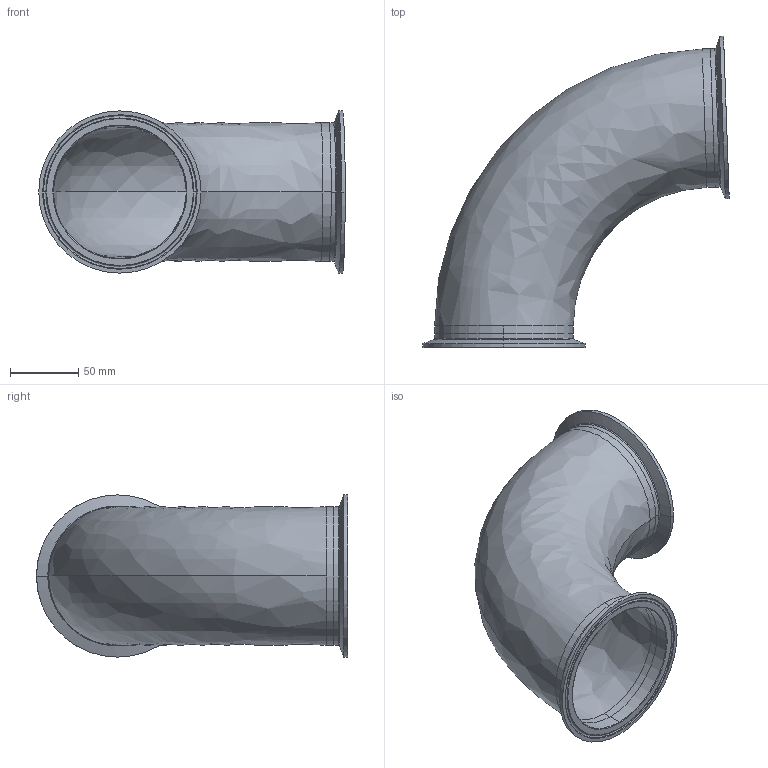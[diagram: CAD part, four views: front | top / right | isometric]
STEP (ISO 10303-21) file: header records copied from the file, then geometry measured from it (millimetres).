
FILE_DESCRIPTION (( 'STEP AP214' ), '1' );
FILE_NAME ('TEG2C886L4.0-...STEP', '2016-05-22T09:25:23', ( 'eran' ), ( '' ), 'SwSTEP 2.0', 'SolidWorks 2016', '' );
FILE_SCHEMA (( 'AUTOMOTIVE_DESIGN' ));
Length unit declared in the file: millimetre
Products named in the file (1): TEG2C886L4.0-..
Bounding box: 224.61 x 228.09 x 118.92 mm (x, y, z)
Volume: 200724.3 mm3; surface area: 181005.2 mm2
Topology: 3 solids, 3 shells, 64 faces, 160 edges, 104 vertices
Faces by surface type: bspline 24, cylinder 20, cone 12, plane 8
Entity records: 3360 total; most frequent: CARTESIAN_POINT 1773, DIRECTION 346, ORIENTED_EDGE 320, EDGE_CURVE 160, AXIS2_PLACEMENT_3D 157, CIRCLE 116, VERTEX_POINT 104, EDGE_LOOP 72
